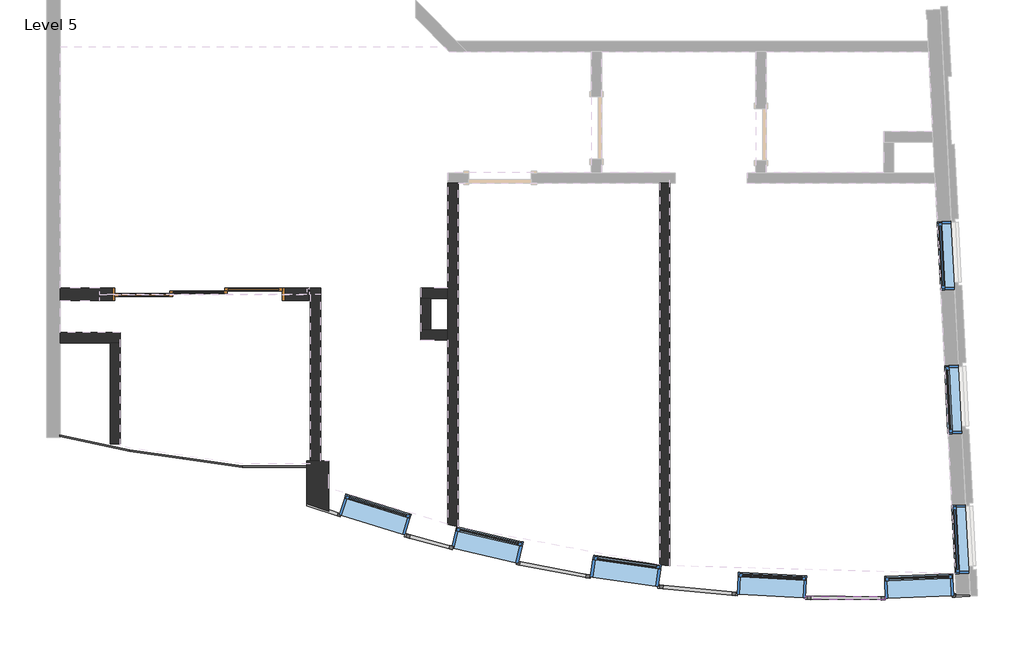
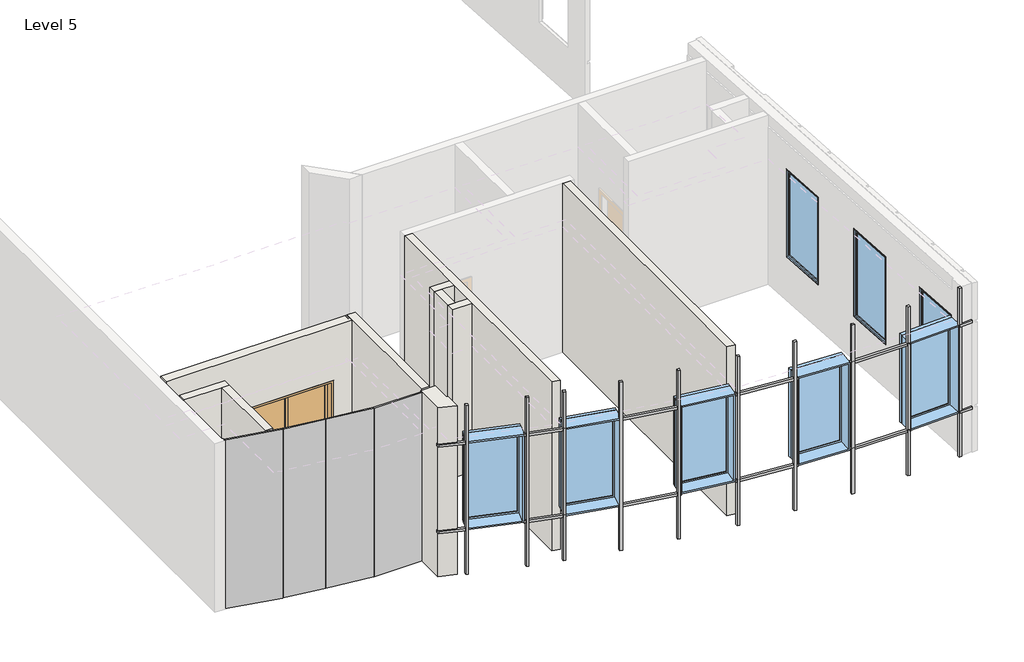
# One storey, part 1 of 5: 12 proxies, 11 walls, 8 windows, 4 plates, 1 door.
"""IFC4 building model written with IfcOpenShell, lengths in millimetres."""

from ifc_helpers import new_model, si_unit, point, frame, frame_2d, origin, place, context, project, spatial, polyline, circle_curve, trimmed, segment, composite_curve, outline, extrude, faceted_brep, transform, mapped, element, save
from ifc_brep_helpers import plane_surface, cylinder_surface, revolved_surface, advanced_brep
from components import sliding_door_3_panel_aus_type_1_135a2ec2, system_panel_glazed_6c35e85d, system_panel_glazed_aacc9fa0, system_panel_glazed_6f96cc8f, system_panel_glazed_6110bdf2, m_fixed_1000_x_1830mm_2_3397196e, m_fixed_1000_x_1830mm_2_ae03b894

model = new_model("IFC4")

# Units and contexts
model_context = context("Model", 3, world=origin())
ifc_project = project(units=[si_unit("LENGTHUNIT", "METRE", prefix="MILLI")], contexts=[model_context])

# Site, building, storey
site = spatial("IfcSite", under=ifc_project)
building = spatial("IfcBuilding", under=site)
storey = spatial("IfcBuildingStorey", under=building, Name="Level 5", Elevation=18500.0)

# Proxies
placement = place(None, origin())
element("IfcBuildingElementProxy", 1, Name="Reveal", ObjectType="Reveal", at=placement, inside=storey, context=model_context, shape_type="SweptSolid", body=[
    extrude(outline(composite_curve([segment(trimmed(circle_curve(frame_2d((11609.3245394, 10843.3737526)), 24025.0), [point((3560.252741, -11793.1690087))], [point((4041.9086857, -11958.7060275))], True, "CARTESIAN"), True, "CONTINUOUS"), segment(polyline([(4041.9086857, -11958.7060275), (4027.1474769, -12006.4887414)]), True, "CONTINUOUS"), segment(trimmed(circle_curve(frame_2d((11609.3245394, 10843.3737526)), 24075.0), [point((4027.1474769, -12006.4887414))], [point((3560.252741, -11846.2288923))], False, "CARTESIAN"), True, "CONTINUOUS"), segment(polyline([(3560.252741, -11846.2288923), (3560.252741, -11793.1690087)]), True, "CONTINUOUS")], self_intersect=False)), frame((0.0, 0.0, 19401.1018524), z_axis=(0.0, 0.0, 1.0), x_axis=(1.0, 0.0, 0.0)), (0.0, 0.0, 1.0), 50.0),
    extrude(outline(composite_curve([segment(trimmed(circle_curve(frame_2d((11609.3245394, 10843.3737526)), 24025.0), [point((13021.5895865, -13140.0816373))], [point((13258.6392504, -13124.9467139))], True, "CARTESIAN"), True, "CONTINUOUS"), segment(polyline([(13258.6392504, -13124.9467139), (13261.1814055, -13174.8900043)]), True, "CONTINUOUS"), segment(trimmed(circle_curve(frame_2d((11609.3245394, 10843.3737526)), 24075.0), [point((13261.1814055, -13174.8900043))], [point((13023.4897345, -13190.0563356))], False, "CARTESIAN"), True, "CONTINUOUS"), segment(polyline([(13023.4897345, -13190.0563356), (13021.5895865, -13140.0816373)]), True, "CONTINUOUS")], self_intersect=False)), frame((0.0, 0.0, 19401.1018524), z_axis=(0.0, 0.0, 1.0), x_axis=(1.0, 0.0, 0.0)), (0.0, 0.0, 1.0), 50.0),
    extrude(outline(composite_curve([segment(trimmed(circle_curve(frame_2d((11609.3245394, 10843.3737526)), 24025.0), [point((10855.1689112, -13169.7866868))], [point((12022.3116475, -13178.0763837))], True, "CARTESIAN"), True, "CONTINUOUS"), segment(polyline([(12022.3116475, -13178.0763837), (12024.2117955, -13228.051082)]), True, "CONTINUOUS"), segment(trimmed(circle_curve(frame_2d((11609.3245394, 10843.3737526)), 24075.0), [point((12024.2117955, -13228.051082))], [point((10852.5590945, -13219.7293528))], False, "CARTESIAN"), True, "CONTINUOUS"), segment(polyline([(10852.5590945, -13219.7293528), (10855.1689112, -13169.7866868)]), True, "CONTINUOUS")], self_intersect=False)), frame((0.0, 0.0, 19401.1018524), z_axis=(0.0, 0.0, 1.0), x_axis=(1.0, 0.0, 0.0)), (0.0, 0.0, 1.0), 50.0),
    extrude(outline(composite_curve([segment(trimmed(circle_curve(frame_2d((11609.3245394, 10843.3737526)), 24025.0), [point((8701.6675401, -13005.0256858))], [point((9856.5314794, -13117.6016343))], True, "CARTESIAN"), True, "CONTINUOUS"), segment(polyline([(9856.5314794, -13117.6016343), (9853.9216627, -13167.5443003)]), True, "CONTINUOUS"), segment(trimmed(circle_curve(frame_2d((11609.3245394, 10843.3737526)), 24075.0), [point((9853.9216627, -13167.5443003))], [point((8694.5830706, -13054.5321634))], False, "CARTESIAN"), True, "CONTINUOUS"), segment(polyline([(8694.5830706, -13054.5321634), (8701.6675401, -13005.0256858)]), True, "CONTINUOUS")], self_intersect=False)), frame((0.0, 0.0, 19401.1018524), z_axis=(0.0, 0.0, 1.0), x_axis=(1.0, 0.0, 0.0)), (0.0, 0.0, 1.0), 50.0),
    extrude(outline(composite_curve([segment(trimmed(circle_curve(frame_2d((11609.3245394, 10843.3737526)), 24025.0), [point((6655.6118444, -12665.3768636))], [point((7711.7519914, -12863.3669182))], True, "CARTESIAN"), True, "CONTINUOUS"), segment(polyline([(7711.7519914, -12863.3669182), (7704.6675219, -12912.8733958)]), True, "CONTINUOUS"), segment(trimmed(circle_curve(frame_2d((11609.3245394, 10843.3737526)), 24075.0), [point((7704.6675219, -12912.8733958))], [point((6644.2839105, -12714.0878372))], False, "CARTESIAN"), True, "CONTINUOUS"), segment(polyline([(6644.2839105, -12714.0878372), (6655.6118444, -12665.3768636)]), True, "CONTINUOUS")], self_intersect=False)), frame((0.0, 0.0, 19401.1018524), z_axis=(0.0, 0.0, 1.0), x_axis=(1.0, 0.0, 0.0)), (0.0, 0.0, 1.0), 50.0),
    extrude(outline(composite_curve([segment(trimmed(circle_curve(frame_2d((11609.3245394, 10843.3737526)), 24025.0), [point((4997.3564116, -12253.8663959))], [point((5681.6029373, -12438.8671535))], True, "CARTESIAN"), True, "CONTINUOUS"), segment(polyline([(5681.6029373, -12438.8671535), (5670.2750034, -12487.578127)]), True, "CONTINUOUS"), segment(trimmed(circle_curve(frame_2d((11609.3245394, 10843.3737526)), 24075.0), [point((5670.2750034, -12487.578127))], [point((4982.5952028, -12301.6491098))], False, "CARTESIAN"), True, "CONTINUOUS"), segment(polyline([(4982.5952028, -12301.6491098), (4997.3564116, -12253.8663959)]), True, "CONTINUOUS")], self_intersect=False)), frame((0.0, 0.0, 19401.1018524), z_axis=(0.0, 0.0, 1.0), x_axis=(1.0, 0.0, 0.0)), (0.0, 0.0, 1.0), 50.0),
])
element("IfcBuildingElementProxy", 2, Name="Reveal", ObjectType="Reveal", at=placement, inside=storey, context=model_context, shape_type="SweptSolid", body=[
    extrude(outline(composite_curve([segment(trimmed(circle_curve(frame_2d((11609.3245394, 10843.3737526)), 24025.0), [point((3560.252741, -11793.1690087))], [point((4041.9086857, -11958.7060275))], True, "CARTESIAN"), True, "CONTINUOUS"), segment(polyline([(4041.9086857, -11958.7060275), (4027.1474769, -12006.4887414)]), True, "CONTINUOUS"), segment(trimmed(circle_curve(frame_2d((11609.3245394, 10843.3737526)), 24075.0), [point((4027.1474769, -12006.4887414))], [point((3560.252741, -11846.2288923))], False, "CARTESIAN"), True, "CONTINUOUS"), segment(polyline([(3560.252741, -11846.2288923), (3560.252741, -11793.1690087)]), True, "CONTINUOUS")], self_intersect=False)), frame((0.0, 0.0, 21195.0), z_axis=(0.0, 0.0, 1.0), x_axis=(1.0, 0.0, 0.0)), (0.0, 0.0, 1.0), 50.0),
    extrude(outline(composite_curve([segment(trimmed(circle_curve(frame_2d((11609.3245394, 10843.3737526)), 24025.0), [point((13021.5895865, -13140.0816373))], [point((13258.6392504, -13124.9467139))], True, "CARTESIAN"), True, "CONTINUOUS"), segment(polyline([(13258.6392504, -13124.9467139), (13261.1814055, -13174.8900043)]), True, "CONTINUOUS"), segment(trimmed(circle_curve(frame_2d((11609.3245394, 10843.3737526)), 24075.0), [point((13261.1814055, -13174.8900043))], [point((13023.4897345, -13190.0563356))], False, "CARTESIAN"), True, "CONTINUOUS"), segment(polyline([(13023.4897345, -13190.0563356), (13021.5895865, -13140.0816373)]), True, "CONTINUOUS")], self_intersect=False)), frame((0.0, 0.0, 21195.0), z_axis=(0.0, 0.0, 1.0), x_axis=(1.0, 0.0, 0.0)), (0.0, 0.0, 1.0), 50.0),
    extrude(outline(composite_curve([segment(trimmed(circle_curve(frame_2d((11609.3245394, 10843.3737526)), 24025.0), [point((10855.1689112, -13169.7866868))], [point((12022.3116475, -13178.0763837))], True, "CARTESIAN"), True, "CONTINUOUS"), segment(polyline([(12022.3116475, -13178.0763837), (12024.2117955, -13228.051082)]), True, "CONTINUOUS"), segment(trimmed(circle_curve(frame_2d((11609.3245394, 10843.3737526)), 24075.0), [point((12024.2117955, -13228.051082))], [point((10852.5590945, -13219.7293528))], False, "CARTESIAN"), True, "CONTINUOUS"), segment(polyline([(10852.5590945, -13219.7293528), (10855.1689112, -13169.7866868)]), True, "CONTINUOUS")], self_intersect=False)), frame((0.0, 0.0, 21195.0), z_axis=(0.0, 0.0, 1.0), x_axis=(1.0, 0.0, 0.0)), (0.0, 0.0, 1.0), 50.0),
    extrude(outline(composite_curve([segment(trimmed(circle_curve(frame_2d((11609.3245394, 10843.3737526)), 24025.0), [point((8701.6675401, -13005.0256858))], [point((9856.5314794, -13117.6016343))], True, "CARTESIAN"), True, "CONTINUOUS"), segment(polyline([(9856.5314794, -13117.6016343), (9853.9216627, -13167.5443003)]), True, "CONTINUOUS"), segment(trimmed(circle_curve(frame_2d((11609.3245394, 10843.3737526)), 24075.0), [point((9853.9216627, -13167.5443003))], [point((8694.5830706, -13054.5321634))], False, "CARTESIAN"), True, "CONTINUOUS"), segment(polyline([(8694.5830706, -13054.5321634), (8701.6675401, -13005.0256858)]), True, "CONTINUOUS")], self_intersect=False)), frame((0.0, 0.0, 21195.0), z_axis=(0.0, 0.0, 1.0), x_axis=(1.0, 0.0, 0.0)), (0.0, 0.0, 1.0), 50.0),
    extrude(outline(composite_curve([segment(trimmed(circle_curve(frame_2d((11609.3245394, 10843.3737526)), 24025.0), [point((6655.6118444, -12665.3768636))], [point((7711.7519914, -12863.3669182))], True, "CARTESIAN"), True, "CONTINUOUS"), segment(polyline([(7711.7519914, -12863.3669182), (7704.6675219, -12912.8733958)]), True, "CONTINUOUS"), segment(trimmed(circle_curve(frame_2d((11609.3245394, 10843.3737526)), 24075.0), [point((7704.6675219, -12912.8733958))], [point((6644.2839105, -12714.0878372))], False, "CARTESIAN"), True, "CONTINUOUS"), segment(polyline([(6644.2839105, -12714.0878372), (6655.6118444, -12665.3768636)]), True, "CONTINUOUS")], self_intersect=False)), frame((0.0, 0.0, 21195.0), z_axis=(0.0, 0.0, 1.0), x_axis=(1.0, 0.0, 0.0)), (0.0, 0.0, 1.0), 50.0),
    extrude(outline(composite_curve([segment(trimmed(circle_curve(frame_2d((11609.3245394, 10843.3737526)), 24025.0), [point((4997.3564116, -12253.8663959))], [point((5681.6029373, -12438.8671535))], True, "CARTESIAN"), True, "CONTINUOUS"), segment(polyline([(5681.6029373, -12438.8671535), (5670.2750034, -12487.578127)]), True, "CONTINUOUS"), segment(trimmed(circle_curve(frame_2d((11609.3245394, 10843.3737526)), 24075.0), [point((5670.2750034, -12487.578127))], [point((4982.5952028, -12301.6491098))], False, "CARTESIAN"), True, "CONTINUOUS"), segment(polyline([(4982.5952028, -12301.6491098), (4997.3564116, -12253.8663959)]), True, "CONTINUOUS")], self_intersect=False)), frame((0.0, 0.0, 21195.0), z_axis=(0.0, 0.0, 1.0), x_axis=(1.0, 0.0, 0.0)), (0.0, 0.0, 1.0), 50.0),
])
element("IfcBuildingElementProxy", 3, Name="Reveal", ObjectType="Reveal", at=placement, inside=storey, context=model_context, shape_type="SweptSolid", body=[
    extrude(outline(polyline([(10930.2286023, -13172.0396044), (10928.7632845, -13222.0181283), (10878.7847607, -13220.5528105), (10880.2500785, -13170.5742866), (10930.2286023, -13172.0396044)])), frame((0.0, 0.0, 18500.0), z_axis=(0.0, 0.0, 1.0), x_axis=(1.0, 0.0, 0.0)), (0.0, 0.0, 1.0), 3500.0),
])
element("IfcBuildingElementProxy", 4, Name="Reveal", ObjectType="Reveal", at=placement, inside=storey, context=model_context, shape_type="SweptSolid", body=[
    extrude(outline(polyline([(9833.8791093, -13115.9468456), (9830.1322307, -13165.8062569), (9780.2728194, -13162.0593784), (9784.0196979, -13112.199967), (9833.8791093, -13115.9468456)])), frame((0.0, 0.0, 18500.0), z_axis=(0.0, 0.0, 1.0), x_axis=(1.0, 0.0, 0.0)), (0.0, 0.0, 1.0), 3500.0),
])
element("IfcBuildingElementProxy", 5, Name="Reveal", ObjectType="Reveal", at=placement, inside=storey, context=model_context, shape_type="SweptSolid", body=[
    extrude(outline(polyline([(8775.1009531, -13013.8772765), (8769.1508054, -13063.5219715), (8719.5061104, -13057.5718239), (8725.456258, -13007.9271288), (8775.1009531, -13013.8772765)])), frame((0.0, 0.0, 18500.0), z_axis=(0.0, 0.0, 1.0), x_axis=(1.0, 0.0, 0.0)), (0.0, 0.0, 1.0), 3500.0),
])
element("IfcBuildingElementProxy", 6, Name="Reveal", ObjectType="Reveal", at=placement, inside=storey, context=model_context, shape_type="SweptSolid", body=[
    extrude(outline(polyline([(5071.1541458, -12274.8782987), (5057.4970808, -12322.9769948), (5009.3983846, -12309.3199298), (5023.0554496, -12261.2212336), (5071.1541458, -12274.8782987)])), frame((0.0, 0.0, 18500.0), z_axis=(0.0, 0.0, 1.0), x_axis=(1.0, 0.0, 0.0)), (0.0, 0.0, 1.0), 3500.0),
])
element("IfcBuildingElementProxy", 7, Name="Reveal", ObjectType="Reveal", at=placement, inside=storey, context=model_context, shape_type="SweptSolid", body=[
    extrude(outline(polyline([(5700.3597547, -12443.6480659), (5688.0118038, -12492.0993621), (5639.5605075, -12479.7514112), (5651.9084585, -12431.3001149), (5700.3597547, -12443.6480659)])), frame((0.0, 0.0, 18500.0), z_axis=(0.0, 0.0, 1.0), x_axis=(1.0, 0.0, 0.0)), (0.0, 0.0, 1.0), 3500.0),
])
element("IfcBuildingElementProxy", 8, Name="Reveal", ObjectType="Reveal", at=placement, inside=storey, context=model_context, shape_type="SweptSolid", body=[
    extrude(outline(polyline([(6679.5658779, -12670.4249524), (6669.2553236, -12719.350329), (6620.329947, -12709.0397746), (6630.6405014, -12660.1143981), (6679.5658779, -12670.4249524)])), frame((0.0, 0.0, 18500.0), z_axis=(0.0, 0.0, 1.0), x_axis=(1.0, 0.0, 0.0)), (0.0, 0.0, 1.0), 3500.0),
])
element("IfcBuildingElementProxy", 9, Name="Reveal", ObjectType="Reveal", at=placement, inside=storey, context=model_context, shape_type="SweptSolid", body=[
    extrude(outline(polyline([(7698.414481, -12861.1834573), (7690.2239038, -12910.5080398), (7640.8993212, -12902.3174626), (7649.0898984, -12852.9928801), (7698.414481, -12861.1834573)])), frame((0.0, 0.0, 18500.0), z_axis=(0.0, 0.0, 1.0), x_axis=(1.0, 0.0, 0.0)), (0.0, 0.0, 1.0), 3500.0),
])
element("IfcBuildingElementProxy", 10, Name="Reveal", ObjectType="Reveal", at=placement, inside=storey, context=model_context, shape_type="SweptSolid", body=[
    extrude(outline(polyline([(12013.3333991, -13178.2420724), (12014.1221857, -13228.2358501), (11964.1284079, -13229.0246368), (11963.3396213, -13179.030859), (12013.3333991, -13178.2420724)])), frame((0.0, 0.0, 18500.0), z_axis=(0.0, 0.0, 1.0), x_axis=(1.0, 0.0, 0.0)), (0.0, 0.0, 1.0), 3500.0),
])
element("IfcBuildingElementProxy", 11, Name="Reveal", ObjectType="Reveal", at=placement, inside=storey, context=model_context, shape_type="SweptSolid", body=[
    extrude(outline(polyline([(13046.0274649, -13138.6431498), (13048.9655422, -13188.5567521), (12999.0519398, -13191.4948294), (12996.1138625, -13141.581227), (13046.0274649, -13138.6431498)])), frame((0.0, 0.0, 18500.0), z_axis=(0.0, 0.0, 1.0), x_axis=(1.0, 0.0, 0.0)), (0.0, 0.0, 1.0), 3500.0),
])
element("IfcBuildingElementProxy", 12, Name="Reveal", ObjectType="Reveal", at=placement, inside=storey, context=model_context, shape_type="SweptSolid", body=[
    extrude(outline(polyline([(4066.129757, -11966.7437937), (4050.3817395, -12014.1990352), (4002.926498, -11998.4510177), (4018.6745155, -11950.9957762), (4066.129757, -11966.7437937)])), frame((0.0, 0.0, 18500.0), z_axis=(0.0, 0.0, 1.0), x_axis=(1.0, 0.0, 0.0)), (0.0, 0.0, 1.0), 3500.0),
])

# Door
sliding_door_3_panel_aus_type_1_shape = sliding_door_3_panel_aus_type_1_135a2ec2(model_context)
element("IfcDoor", 13, ObjectType="Sliding Door - 3 Panel (AUS) : Type 1", at=placement, inside=storey, context=model_context, shape_type="MappedRepresentation", body=[
    mapped(sliding_door_3_panel_aus_type_1_shape, transform((2060.7158708, -8752.2362629, 18500.0), x_axis=(-1.0, 0.0, 0.0), y_axis=(0.0, -1.0, 0.0), z_axis=(0.0, 0.0, 1.0))),
])

# Plates
system_panel_glazed_shape = system_panel_glazed_6c35e85d(model_context)
element("IfcPlate", 14, ObjectType="System Panel : Glazed", at=placement, inside=storey, context=model_context, shape_type="MappedRepresentation", body=[
    mapped(system_panel_glazed_shape, transform((3090.252741, -11236.9456492, 18500.0), x_axis=(-1.0, 0.0, 0.0), y_axis=(0.0, -1.0, 0.0), z_axis=(0.0, 0.0, 1.0))),
])
system_panel_glazed_2_shape = system_panel_glazed_aacc9fa0(model_context)
element("IfcPlate", 15, ObjectType="System Panel : Glazed", at=placement, inside=storey, context=model_context, shape_type="MappedRepresentation", body=[
    mapped(system_panel_glazed_2_shape, transform((2183.3563773, -11175.5438696, 18500.0), x_axis=(-0.9902680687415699, 0.1391731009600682, 0.0), y_axis=(-0.1391731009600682, -0.9902680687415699, 0.0), z_axis=(0.0, 0.0, 1.0))),
])
system_panel_glazed_3_shape = system_panel_glazed_6f96cc8f(model_context)
element("IfcPlate", 16, ObjectType="System Panel : Glazed", at=placement, inside=storey, context=model_context, shape_type="MappedRepresentation", body=[
    mapped(system_panel_glazed_3_shape, transform((1360.2554668, -11059.8645806, 18500.0), x_axis=(-0.9902680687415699, 0.13917310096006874, 0.0), y_axis=(-0.13917310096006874, -0.9902680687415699, 0.0), z_axis=(0.0, 0.0, 1.0))),
])
system_panel_glazed_4_shape = system_panel_glazed_6110bdf2(model_context)
element("IfcPlate", 17, ObjectType="System Panel : Glazed", at=placement, inside=storey, context=model_context, shape_type="MappedRepresentation", body=[
    mapped(system_panel_glazed_4_shape, transform((462.0043948, -10896.7482224, 18500.0), x_axis=(-0.9781476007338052, 0.20791169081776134, 0.0), y_axis=(-0.20791169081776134, -0.9781476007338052, 0.0), z_axis=(0.0, 0.0, 1.0))),
])

# Walls
element("IfcWall", 18, ObjectType="Generic - 20cm-gypsum-kamposite", at=placement, inside=storey, context=model_context, shape_type="AdvancedBrep", body=[
    advanced_brep(
    [(3880.252741, -11930.821055, 18500.0), (3880.252741, -11592.6318887, 18500.0), (3880.252741, -11189.3160932, 18500.0), (3880.252741, -11189.3160932, 21759.0), (3880.252741, -11592.6318887, 21759.0), (3880.252741, -11624.3597587, 21759.0), (3880.252741, -11624.3597587, 22000.0), (3880.252741, -11930.821055, 22000.0), (3880.252741, -11930.821055, 21245.0), (3880.252741, -11904.4189785, 21245.0), (3880.252741, -11904.4189785, 21195.0), (3880.252741, -11930.821055, 21195.0), (3880.252741, -11930.821055, 19451.1018524), (3880.252741, -11904.4189785, 19451.1018524), (3880.252741, -11904.4189785, 19401.1018524), (3880.252741, -11930.821055, 19401.1018524), (3560.252741, -11189.3160932, 18500.0), (3560.252741, -11819.7006899, 18500.0), (3560.252741, -11819.7006899, 19401.1018524), (3560.252741, -11793.1690087, 19401.1018524), (3560.252741, -11793.1690087, 19451.1018524), (3560.252741, -11819.7006899, 19451.1018524), (3560.252741, -11819.7006899, 21195.0), (3560.252741, -11793.1690087, 21195.0), (3560.252741, -11793.1690087, 21245.0), (3560.252741, -11819.7006899, 21245.0), (3560.252741, -11819.7006899, 22000.0), (3560.252741, -11236.9456492, 22000.0), (3560.252741, -11236.9456492, 21759.0), (3560.252741, -11189.3160932, 21759.0), (3610.252741, -11189.3160932, 18500.0), (3760.252741, -11189.3160932, 18500.0), (3850.252741, -11614.0171205, 22000.0), (3850.252741, -11236.9456492, 22000.0), (3850.252741, -11236.9456492, 21759.0), (3850.252741, -11614.0171205, 21759.0)],
    [
        (0, 1),
        (1, 2),
        (2, 3),
        (3, 4),
        (4, 5),
        (5, 6),
        (6, 7),
        (7, 8),
        (8, 9),
        (9, 10),
        (10, 11),
        (11, 12),
        (12, 13),
        (13, 14),
        (14, 15),
        (15, 0),
        (16, 17),
        (17, 18),
        (18, 19),
        (19, 20),
        (20, 21),
        (21, 22),
        (22, 23),
        (23, 24),
        (24, 25),
        (25, 26),
        (26, 27),
        (27, 28),
        (28, 29),
        (29, 16),
        (0, 17, circle_curve(frame((11609.3245394, 10843.3737526, 18500.0), z_axis=(0.0, 0.0, -1.0), x_axis=(-0.33468074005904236, -0.942331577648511, 0.0)), 24050.0)),
        (16, 30),
        (30, 31),
        (31, 2),
        (29, 3),
        (26, 7, circle_curve(frame((11609.3245394, 10843.3737526, 22000.0), z_axis=(0.0, 0.0, 1.0), x_axis=(-0.33468074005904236, -0.942331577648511, 0.0)), 24050.0)),
        (6, 32, circle_curve(frame((11609.3245394, 10843.3737526, 22000.0), z_axis=(0.0, 0.0, -1.0), x_axis=(1.0, 0.0, 0.0)), 23760.0)),
        (32, 33),
        (33, 27),
        (25, 8, circle_curve(frame((11609.3245394, 10843.3737526, 21245.0), z_axis=(0.0, 0.0, 1.0), x_axis=(-0.33468074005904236, -0.942331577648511, 0.0)), 24050.0)),
        (15, 18, circle_curve(frame((11609.3245394, 10843.3737526, 19401.1018524), z_axis=(0.0, 0.0, -1.0), x_axis=(-0.33468074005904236, -0.942331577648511, 0.0)), 24050.0)),
        (21, 12, circle_curve(frame((11609.3245394, 10843.3737526, 19451.1018524), z_axis=(0.0, 0.0, 1.0), x_axis=(-0.33468074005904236, -0.942331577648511, 0.0)), 24050.0)),
        (11, 22, circle_curve(frame((11609.3245394, 10843.3737526, 21195.0), z_axis=(0.0, 0.0, -1.0), x_axis=(-0.33468074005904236, -0.942331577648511, 0.0)), 24050.0)),
        (20, 13, circle_curve(frame((11609.3245394, 10843.3737526, 19451.1018524), z_axis=(0.0, 0.0, 1.0), x_axis=(-0.3149603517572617, -0.9491048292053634, 0.0)), 24025.0)),
        (14, 19, circle_curve(frame((11609.3245394, 10843.3737526, 19401.1018524), z_axis=(0.0, 0.0, -1.0), x_axis=(-0.3149603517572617, -0.9491048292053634, 0.0)), 24025.0)),
        (24, 9, circle_curve(frame((11609.3245394, 10843.3737526, 21245.0), z_axis=(0.0, 0.0, 1.0), x_axis=(-0.3149603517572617, -0.9491048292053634, 0.0)), 24025.0)),
        (10, 23, circle_curve(frame((11609.3245394, 10843.3737526, 21195.0), z_axis=(0.0, 0.0, -1.0), x_axis=(-0.3149603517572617, -0.9491048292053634, 0.0)), 24025.0)),
        (34, 35),
        (35, 5, circle_curve(frame((11609.3245394, 10843.3737526, 21759.0), z_axis=(0.0, 0.0, 1.0), x_axis=(1.0, 0.0, 0.0)), 23760.0)),
        (28, 34),
        (35, 32),
        (34, 33),
    ],
    [
        plane_surface(frame((3880.252741, -11283.4147586, 18500.0), z_axis=(1.0, 0.0, 0.0), x_axis=(0.0, 1.0, 0.0))),
        plane_surface(frame((3560.252741, -11283.4147586, 18500.0), z_axis=(-1.0, 0.0, 0.0), x_axis=(0.0, -1.0, 0.0))),
        plane_surface(frame((3880.252741, -11706.4521039, 18500.0), z_axis=(0.0, 0.0, -1.0), x_axis=(-1.0, 0.0, 0.0))),
        plane_surface(frame((3880.252741, -11189.3160932, 18500.0), z_axis=(0.0, 1.0, 0.0), x_axis=(-1.0, 0.0, 0.0))),
        plane_surface(frame((3880.252741, -11189.3160932, 22000.0), z_axis=(0.0, 0.0, 1.0), x_axis=(-1.0, 0.0, 0.0))),
        cylinder_surface(frame((11609.3245394, 10843.3737526, 18500.0), z_axis=(0.0, 0.0, 1.0), x_axis=(-0.33468074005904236, -0.942331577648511, 0.0)), 24050.0),
        plane_surface(frame((11609.3245394, 10843.3737526, 19451.1018524), z_axis=(0.0, 0.0, -1.0), x_axis=(-0.3149603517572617, -0.9491048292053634, 0.0))),
        plane_surface(frame((11609.3245394, 10843.3737526, 19401.1018524), z_axis=(0.0, 0.0, 1.0), x_axis=(-0.3149603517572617, -0.9491048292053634, 0.0))),
        cylinder_surface(frame((11609.3245394, 10843.3737526, 19426.1018524), z_axis=(0.0, 0.0, -1.0), x_axis=(-0.3149603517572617, -0.9491048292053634, 0.0)), 24025.0),
        plane_surface(frame((11609.3245394, 10843.3737526, 21245.0), z_axis=(0.0, 0.0, -1.0), x_axis=(-0.3149603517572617, -0.9491048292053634, 0.0))),
        plane_surface(frame((11609.3245394, 10843.3737526, 21195.0), z_axis=(0.0, 0.0, 1.0), x_axis=(-0.3149603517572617, -0.9491048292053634, 0.0))),
        cylinder_surface(frame((11609.3245394, 10843.3737526, 21220.0), z_axis=(0.0, 0.0, -1.0), x_axis=(-0.3149603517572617, -0.9491048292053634, 0.0)), 24025.0),
        plane_surface(frame((-80.0421304, 14944.8648867, 21759.0), z_axis=(0.0, 0.0, 1.0), x_axis=(0.9323005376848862, -0.36168454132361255, 0.0))),
        revolved_surface(polyline([(35369.3245394, 10843.3737526, 21759.0), (35369.3245394, 10843.3737526, 22000.0)]), (11609.3245394, 10843.3737526, 22000.0), (0.0, 0.0, -1.0)),
        plane_surface(frame((3850.252741, -11614.0171205, 21759.0), z_axis=(1.0, 0.0, 0.0), x_axis=(0.0, 0.0, 1.0))),
        plane_surface(frame((3850.252741, -11236.9456492, 21759.0), z_axis=(0.0, 1.0, 0.0), x_axis=(0.0, 0.0, 1.0))),
    ],
    [
        (0, [[1, 2, 3, 4, 5, 6, 7, 8, 9, 10, 11, 12, 13, 14, 15, 16]]),
        (1, [[17, 18, 19, 20, 21, 22, 23, 24, 25, 26, 27, 28, 29, 30]]),
        (2, [[-2, -1, 31, -17, 32, 33, 34]]),
        (3, [[-34, -33, -32, -30, 35, -3]]),
        (4, [[36, -7, 37, 38, 39, -27]]),
        (5, [[-36, -26, 40, -8]]),
        (5, [[-31, -16, 41, -18]]),
        (5, [[42, -12, 43, -22]]),
        (6, [[44, -13, -42, -21]]),
        (7, [[45, -19, -41, -15]]),
        (8, [[-44, -20, -45, -14]]),
        (9, [[46, -9, -40, -25]]),
        (10, [[47, -23, -43, -11]]),
        (11, [[-46, -24, -47, -10]]),
        (12, [[48, 49, -5, -4, -35, -29, 50]]),
        (13, [[51, -37, -6, -49]]),
        (14, [[-48, 52, -38, -51]]),
        (15, [[-52, -50, -28, -39]]),
    ],
),
])
element("IfcWall", 19, ObjectType="Generic - 15cm-gypsu-2boith", at=placement, inside=storey, context=model_context, shape_type="SweptSolid", body=[
    extrude(outline(composite_curve([segment(polyline([(8720.2907737, -12710.1054788), (8720.2907737, -7123.7981953), (8870.2907737, -7123.7981953), (8870.2907737, -12728.0198004)]), True, "CONTINUOUS"), segment(trimmed(circle_curve(frame_2d((11609.3245394, 10843.3737526)), 23730.0), [point((8870.2907737, -12728.0198004))], [point((8720.2907737, -12710.1054788))], False, "CARTESIAN"), True, "CONTINUOUS")], self_intersect=False)), frame((0.0, 0.0, 18500.0), z_axis=(0.0, 0.0, 1.0), x_axis=(1.0, 0.0, 0.0)), (0.0, 0.0, 1.0), 3500.0),
])
element("IfcWall", 20, ObjectType="Generic - 15cm-gypsu-2boith", at=placement, inside=storey, context=model_context, shape_type="AdvancedBrep", body=[
    advanced_brep(
    [(5620.2907737, -7123.7981953, 18500.0), (5620.2907737, -8662.29082, 18500.0), (5620.2907737, -8812.29082, 18500.0), (5620.2907737, -9272.4272222, 18500.0), (5620.2907737, -9422.4272222, 18500.0), (5620.2907737, -12118.4287584, 18500.0), (5620.2907737, -12118.4287584, 22000.0), (5620.2907737, -9422.4272222, 22000.0), (5620.2907737, -9272.4272222, 22000.0), (5620.2907737, -8812.29082, 22000.0), (5620.2907737, -8662.29082, 22000.0), (5620.2907737, -7123.7981953, 22000.0), (5770.2907737, -7123.7981953, 18500.0), (5770.2907737, -7123.7981953, 22000.0), (5770.2907737, -12157.0302587, 22000.0), (5770.2907737, -12157.0302587, 18500.0)],
    [
        (0, 1),
        (1, 2),
        (2, 3),
        (3, 4),
        (4, 5),
        (5, 6),
        (6, 7),
        (7, 8),
        (8, 9),
        (9, 10),
        (10, 11),
        (11, 0),
        (12, 13),
        (13, 14),
        (14, 15),
        (15, 12),
        (0, 12),
        (15, 5, circle_curve(frame((11609.3245394, 10843.3737526, 18500.0), z_axis=(0.0, 0.0, -1.0), x_axis=(-0.33468074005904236, -0.942331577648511, 0.0)), 23730.0)),
        (6, 14, circle_curve(frame((11609.3245394, 10843.3737526, 22000.0), z_axis=(0.0, 0.0, 1.0), x_axis=(-0.33468074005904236, -0.942331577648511, 0.0)), 23730.0)),
        (13, 11),
    ],
    [
        plane_surface(frame((5620.2907737, -7123.7981953, 18500.0), z_axis=(-1.0, 0.0, 0.0), x_axis=(0.0, -1.0, 0.0))),
        plane_surface(frame((5770.2907737, -7123.7981953, 18500.0), z_axis=(1.0, 0.0, 0.0), x_axis=(0.0, 1.0, 0.0))),
        plane_surface(frame((5620.2907737, -7048.7981953, 18500.0), z_axis=(0.0, 0.0, -1.0), x_axis=(1.0, 0.0, 0.0))),
        plane_surface(frame((5620.2907737, -12303.036436, 22000.0), z_axis=(0.0, 0.0, 1.0), x_axis=(1.0, 0.0, 0.0))),
        cylinder_surface(frame((11609.3245394, 10843.3737526, 18500.0), z_axis=(0.0, 0.0, -1.0), x_axis=(-0.33468074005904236, -0.942331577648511, 0.0)), 23730.0),
        plane_surface(frame((8730.3395953, -7123.7981953, 18500.0), z_axis=(0.0, 1.0, 0.0), x_axis=(1.0, 0.0, 0.0))),
    ],
    [
        (0, [[1, 2, 3, 4, 5, 6, 7, 8, 9, 10, 11, 12]]),
        (1, [[13, 14, 15, 16]]),
        (2, [[-5, -4, -3, -2, -1, 17, -16, 18]]),
        (3, [[-11, -10, -9, -8, -7, 19, -14, 20]]),
        (4, [[-6, -18, -15, -19]]),
        (5, [[-12, -20, -13, -17]]),
    ],
),
])
element("IfcWall", 21, ObjectType="Generic - 15cm-gypsu-2boith", at=placement, inside=storey, context=model_context, shape_type="Brep", body=[
    faceted_brep([(5620.2907737, -9272.4272222, 18500.0), (5373.5699518, -9272.4272222, 18500.0), (5223.5699518, -9272.4272222, 18500.0), (5223.5699518, -9272.4272222, 22000.0), (5373.5699518, -9272.4272222, 22000.0), (5620.2907737, -9272.4272222, 22000.0), (5620.2907737, -9422.4272222, 18500.0), (5620.2907737, -9422.4272222, 22000.0), (5223.5699518, -9422.4272222, 22000.0), (5223.5699518, -9422.4272222, 18500.0)], [[[0, 1, 2, 3, 4, 5]], [[6, 7, 8, 9]], [[2, 1, 0, 6, 9]], [[5, 4, 3, 8, 7]], [[0, 5, 7, 6]], [[3, 2, 9, 8]]]),
])
element("IfcWall", 22, ObjectType="Generic - 15cm-gypsu-2boith", at=placement, inside=storey, context=model_context, shape_type="SweptSolid", body=[
    extrude(outline(polyline([(5373.5699518, -8812.29082), (5373.5699518, -9272.4272222), (5223.5699518, -9272.4272222), (5223.5699518, -8812.29082), (5373.5699518, -8812.29082)])), frame((0.0, 0.0, 18500.0), z_axis=(0.0, 0.0, 1.0), x_axis=(1.0, 0.0, 0.0)), (0.0, 0.0, 1.0), 3500.0),
])
element("IfcWall", 23, ObjectType="Generic - 15cm-gypsu-2boith", at=placement, inside=storey, context=model_context, shape_type="Brep", body=[
    faceted_brep([(5223.5699518, -8812.29082, 18500.0), (5373.5699518, -8812.29082, 18500.0), (5620.2907737, -8812.29082, 18500.0), (5620.2907737, -8812.29082, 22000.0), (5373.5699518, -8812.29082, 22000.0), (5223.5699518, -8812.29082, 22000.0), (5223.5699518, -8662.29082, 18500.0), (5223.5699518, -8662.29082, 22000.0), (5620.2907737, -8662.29082, 22000.0), (5620.2907737, -8662.29082, 18500.0)], [[[0, 1, 2, 3, 4, 5]], [[6, 7, 8, 9]], [[2, 1, 0, 6, 9]], [[5, 4, 3, 8, 7]], [[0, 5, 7, 6]], [[3, 2, 9, 8]]]),
])
element("IfcWall", 24, ObjectType="Generic - 10cm-gypsu-2boith", at=placement, inside=storey, context=model_context, shape_type="SweptSolid", body=[
    extrude(outline(polyline([(3557.6788606, -8673.6141586), (3600.5670169, -8673.6141586), (3600.5670169, -8773.6141586), (3557.6788606, -8773.6141586), (3557.6788606, -8673.6141586)])), frame((0.0, 0.0, 18500.0), z_axis=(0.0, 0.0, 1.0), x_axis=(1.0, 0.0, 0.0)), (0.0, 0.0, 1.0), 3500.0),
])
element("IfcWall", 25, ObjectType="Generic - 15cm-gypsu-2boith", at=placement, inside=storey, context=model_context, shape_type="Brep", body=[
    faceted_brep([(829.9393362, -9312.1185157, 18500.0), (-50.0421304, -9312.1185157, 18500.0), (-50.0421304, -9312.1185157, 22000.0), (829.9393362, -9312.1185157, 22000.0), (829.9393362, -9462.1185157, 18500.0), (829.9393362, -9462.1185157, 22000.0), (679.9393362, -9462.1185157, 22000.0), (-50.0421304, -9462.1185157, 22000.0), (-50.0421304, -9462.1185157, 18500.0), (679.9393362, -9462.1185157, 18500.0)], [[[0, 1, 2, 3]], [[4, 5, 6, 7, 8, 9]], [[1, 0, 4, 9, 8]], [[3, 2, 7, 6, 5]], [[2, 1, 8, 7]], [[0, 3, 5, 4]]]),
])
element("IfcWall", 26, ObjectType="Generic - 15cm-gypsu-2boith", at=placement, inside=storey, context=model_context, shape_type="SweptSolid", body=[
    extrude(outline(polyline([(679.9393362, -10941.9462756), (679.9393362, -9462.1185157), (829.9393362, -9462.1185157), (829.9393362, -10941.9462756), (679.9393362, -10941.9462756)])), frame((0.0, 0.0, 18500.0), z_axis=(0.0, 0.0, 1.0), x_axis=(1.0, 0.0, 0.0)), (0.0, 0.0, 1.0), 3500.0),
])
element("IfcWall", 27, ObjectType="Generic - 18cm-gypsu-2boith 2", at=placement, inside=storey, context=model_context, shape_type="SweptSolid", body=[
    extrude(outline(polyline([(22000.0, 3589.9578696), (22000.0, -50.0421304), (18500.0, -50.0421304), (18500.0, 709.9578696), (20883.0, 709.9578696), (20883.0, 3239.9578696), (18500.0, 3239.9578696), (18500.0, 3589.9578696), (22000.0, 3589.9578696)])), frame((0.0, -8842.2362629, 0.0), z_axis=(0.0, 1.0, 0.0), x_axis=(0.0, 0.0, 1.0)), (0.0, 0.0, 1.0), 180.0),
])
element("IfcWall", 28, ObjectType="Generic - 15cm-granit 2", at=placement, inside=storey, context=model_context, shape_type="SweptSolid", body=[
    extrude(outline(polyline([(3610.252741, -11189.3160932), (3610.252741, -8662.29082), (3760.252741, -8662.29082), (3760.252741, -11189.3160932), (3610.252741, -11189.3160932)])), frame((0.0, 0.0, 18500.0), z_axis=(0.0, 0.0, 1.0), x_axis=(1.0, 0.0, 0.0)), (0.0, 0.0, 1.0), 3500.0),
])

# Windows
m_fixed_1000_x_1830mm_2_shape = m_fixed_1000_x_1830mm_2_3397196e(model_context)
element("IfcWindow", 29, ObjectType="M_Fixed : 1000 x 1830mm 2", at=placement, inside=storey, context=model_context, shape_type="MappedRepresentation", body=[
    mapped(m_fixed_1000_x_1830mm_2_shape, transform((13131.5568795, -12339.6994395, 19095.0), x_axis=(-0.05083502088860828, 0.9987070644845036, 0.0), y_axis=(-0.9987070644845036, -0.05083502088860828, 0.0), z_axis=(0.0, 0.0, 1.0))),
])
element("IfcWindow", 30, ObjectType="M_Fixed : 1000 x 1830mm 2", at=placement, inside=storey, context=model_context, shape_type="MappedRepresentation", body=[
    mapped(m_fixed_1000_x_1830mm_2_shape, transform((13027.3450867, -10292.3499573, 19095.0), x_axis=(-0.05083502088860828, 0.9987070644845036, 0.0), y_axis=(-0.9987070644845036, -0.05083502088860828, 0.0), z_axis=(0.0, 0.0, 1.0))),
])
element("IfcWindow", 31, ObjectType="M_Fixed : 1000 x 1830mm 2", at=placement, inside=storey, context=model_context, shape_type="MappedRepresentation", body=[
    mapped(m_fixed_1000_x_1830mm_2_shape, transform((12920.0831926, -8185.0780513, 19095.0), x_axis=(-0.05083502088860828, 0.9987070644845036, 0.0), y_axis=(-0.9987070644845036, -0.05083502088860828, 0.0), z_axis=(0.0, 0.0, 1.0))),
])
m_fixed_1000_x_1830mm_2_2_shape = m_fixed_1000_x_1830mm_2_ae03b894(model_context)
element("IfcWindow", 32, ObjectType="M_Fixed : 1000 x 1830mm 2", at=placement, inside=storey, context=model_context, shape_type="MappedRepresentation", body=[
    mapped(m_fixed_1000_x_1830mm_2_2_shape, transform((12517.3154635, -13037.1725082, 19095.0), x_axis=(0.9992779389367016, 0.037994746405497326, 0.0), y_axis=(-0.037994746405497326, 0.9992779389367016, 0.0), z_axis=(0.0, 0.0, 1.0))),
])
element("IfcWindow", 33, ObjectType="M_Fixed : 1000 x 1830mm 2", at=placement, inside=storey, context=model_context, shape_type="MappedRepresentation", body=[
    mapped(m_fixed_1000_x_1830mm_2_2_shape, transform((10362.2164894, -13021.8657967, 19095.0), x_axis=(0.998637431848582, -0.05218505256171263, 0.0), y_axis=(0.05218505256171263, 0.998637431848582, 0.0), z_axis=(0.0, 0.0, 1.0))),
])
element("IfcWindow", 34, ObjectType="M_Fixed : 1000 x 1830mm 2", at=placement, inside=storey, context=model_context, shape_type="MappedRepresentation", body=[
    mapped(m_fixed_1000_x_1830mm_2_2_shape, transform((8223.991369, -12813.4319607, 19095.0), x_axis=(0.989915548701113, -0.14165876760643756, 0.0), y_axis=(0.14165876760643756, 0.989915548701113, 0.0), z_axis=(0.0, 0.0, 1.0))),
])
element("IfcWindow", 35, ObjectType="M_Fixed : 1000 x 1830mm 2", at=placement, inside=storey, context=model_context, shape_type="MappedRepresentation", body=[
    mapped(m_fixed_1000_x_1830mm_2_2_shape, transform((6196.24035, -12433.2981915, 19095.0), x_axis=(0.9740089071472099, -0.22650971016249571, 0.0), y_axis=(0.22650971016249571, 0.9740089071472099, 0.0), z_axis=(0.0, 0.0, 1.0))),
])
element("IfcWindow", 36, ObjectType="M_Fixed : 1000 x 1830mm 2", at=placement, inside=storey, context=model_context, shape_type="MappedRepresentation", body=[
    mapped(m_fixed_1000_x_1830mm_2_2_shape, transform((4555.6405167, -11989.7267583, 19095.0), x_axis=(0.9554477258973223, -0.2951603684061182, 0.0), y_axis=(0.2951603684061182, 0.9554477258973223, 0.0), z_axis=(0.0, 0.0, 1.0))),
])

save(model, "model.ifc")
